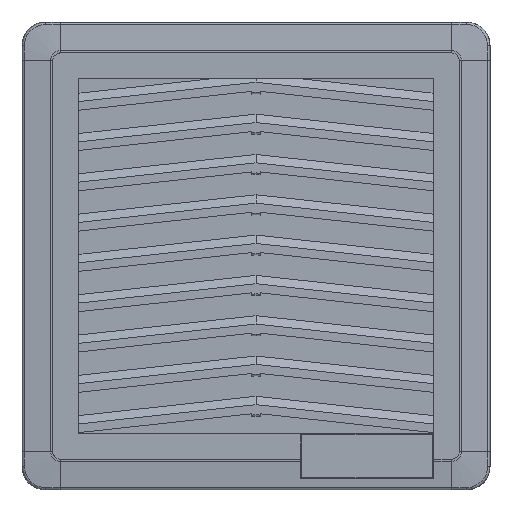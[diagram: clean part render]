
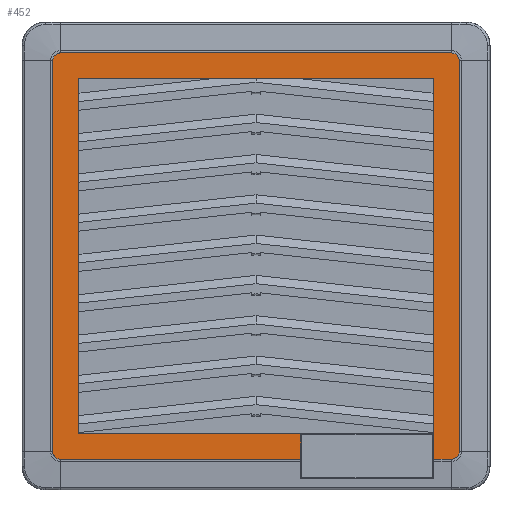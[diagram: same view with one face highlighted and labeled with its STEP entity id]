
A CAD part, top view. The second image highlights one B-rep face of the part: STEP entity #452.
In plain terms, the highlighted planar face has unit normal (0, 0, 1).
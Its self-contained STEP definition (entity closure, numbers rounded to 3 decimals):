
#54=(
BOUNDED_CURVE()
B_SPLINE_CURVE(2,(#6524,#6525,#6526),.UNSPECIFIED.,.F.,.F.)
B_SPLINE_CURVE_WITH_KNOTS((3,3),(0.,2.73),.UNSPECIFIED.)
CURVE()
GEOMETRIC_REPRESENTATION_ITEM()
RATIONAL_B_SPLINE_CURVE((1.,0.707,1.))
REPRESENTATION_ITEM('')
);
#58=(
BOUNDED_CURVE()
B_SPLINE_CURVE(2,(#6538,#6539,#6540),.UNSPECIFIED.,.F.,.F.)
B_SPLINE_CURVE_WITH_KNOTS((3,3),(0.,2.73),.UNSPECIFIED.)
CURVE()
GEOMETRIC_REPRESENTATION_ITEM()
RATIONAL_B_SPLINE_CURVE((1.,0.707,1.))
REPRESENTATION_ITEM('')
);
#63=(
BOUNDED_CURVE()
B_SPLINE_CURVE(2,(#6555,#6556,#6557),.UNSPECIFIED.,.F.,.F.)
B_SPLINE_CURVE_WITH_KNOTS((3,3),(0.,2.73),.UNSPECIFIED.)
CURVE()
GEOMETRIC_REPRESENTATION_ITEM()
RATIONAL_B_SPLINE_CURVE((1.,0.707,1.))
REPRESENTATION_ITEM('')
);
#66=(
BOUNDED_CURVE()
B_SPLINE_CURVE(2,(#6566,#6567,#6568),.UNSPECIFIED.,.F.,.F.)
B_SPLINE_CURVE_WITH_KNOTS((3,3),(0.,2.73),.UNSPECIFIED.)
CURVE()
GEOMETRIC_REPRESENTATION_ITEM()
RATIONAL_B_SPLINE_CURVE((1.,0.707,1.))
REPRESENTATION_ITEM('')
);
#452=ADVANCED_FACE('',(#659),#3683,.T.);
#659=FACE_OUTER_BOUND('',#867,.T.);
#867=EDGE_LOOP('',(#1655,#1656,#1657,#1658,#1659,#1660,#1661,#1662,#1663,
#1664,#1665,#1666,#1667,#1668));
#1655=ORIENTED_EDGE('',*,*,#2547,.F.);
#1656=ORIENTED_EDGE('',*,*,#2562,.F.);
#1657=ORIENTED_EDGE('',*,*,#2550,.F.);
#1658=ORIENTED_EDGE('',*,*,#2567,.F.);
#1659=ORIENTED_EDGE('',*,*,#2551,.F.);
#1660=ORIENTED_EDGE('',*,*,#2573,.F.);
#1661=ORIENTED_EDGE('',*,*,#2552,.F.);
#1662=ORIENTED_EDGE('',*,*,#2577,.F.);
#1663=ORIENTED_EDGE('',*,*,#2553,.F.);
#1664=ORIENTED_EDGE('',*,*,#2554,.F.);
#1665=ORIENTED_EDGE('',*,*,#2297,.F.);
#1666=ORIENTED_EDGE('',*,*,#2267,.F.);
#1667=ORIENTED_EDGE('',*,*,#2537,.T.);
#1668=ORIENTED_EDGE('',*,*,#2272,.T.);
#2267=EDGE_CURVE('',#3323,#3284,#2827,.T.);
#2272=EDGE_CURVE('',#3331,#3330,#2832,.T.);
#2297=EDGE_CURVE('',#3284,#3374,#2857,.T.);
#2537=EDGE_CURVE('',#3323,#3331,#3097,.T.);
#2547=EDGE_CURVE('',#3492,#3330,#3107,.T.);
#2550=EDGE_CURVE('',#3494,#3493,#3108,.T.);
#2551=EDGE_CURVE('',#3496,#3495,#3109,.T.);
#2552=EDGE_CURVE('',#3498,#3497,#3110,.T.);
#2553=EDGE_CURVE('',#3500,#3499,#3111,.T.);
#2554=EDGE_CURVE('',#3374,#3500,#3112,.T.);
#2562=EDGE_CURVE('',#3493,#3492,#54,.T.);
#2567=EDGE_CURVE('',#3495,#3494,#58,.T.);
#2573=EDGE_CURVE('',#3497,#3496,#63,.T.);
#2577=EDGE_CURVE('',#3499,#3498,#66,.T.);
#2827=B_SPLINE_CURVE_WITH_KNOTS('',1,(#5921,#5922),.UNSPECIFIED.,.F.,.F.,
(2,2),(0.,81.),.UNSPECIFIED.);
#2832=B_SPLINE_CURVE_WITH_KNOTS('',1,(#5931,#5932),.UNSPECIFIED.,.F.,.F.,
(2,2),(-86.775,0.),.UNSPECIFIED.);
#2857=B_SPLINE_CURVE_WITH_KNOTS('',1,(#5985,#5986),.UNSPECIFIED.,.F.,.F.,
(2,2),(0.,50.6),.UNSPECIFIED.);
#3097=B_SPLINE_CURVE_WITH_KNOTS('',1,(#6465,#6466),.UNSPECIFIED.,.F.,.F.,
(2,2),(-80.9,0.),.UNSPECIFIED.);
#3107=B_SPLINE_CURVE_WITH_KNOTS('',1,(#6485,#6486),.UNSPECIFIED.,.F.,.F.,
(2,2),(0.,4.087),.UNSPECIFIED.);
#3108=B_SPLINE_CURVE_WITH_KNOTS('',1,(#6493,#6494),.UNSPECIFIED.,.F.,.F.,
(2,2),(-89.073,0.),.UNSPECIFIED.);
#3109=B_SPLINE_CURVE_WITH_KNOTS('',1,(#6495,#6496),.UNSPECIFIED.,.F.,.F.,
(2,2),(-89.073,0.),.UNSPECIFIED.);
#3110=B_SPLINE_CURVE_WITH_KNOTS('',1,(#6497,#6498),.UNSPECIFIED.,.F.,.F.,
(2,2),(-89.073,0.),.UNSPECIFIED.);
#3111=B_SPLINE_CURVE_WITH_KNOTS('',1,(#6499,#6500),.UNSPECIFIED.,.F.,.F.,
(2,2),(-54.687,0.),.UNSPECIFIED.);
#3112=B_SPLINE_CURVE_WITH_KNOTS('',1,(#6501,#6502),.UNSPECIFIED.,.F.,.F.,
(2,2),(-5.775,0.),.UNSPECIFIED.);
#3284=VERTEX_POINT('',#5607);
#3323=VERTEX_POINT('',#5646);
#3330=VERTEX_POINT('',#5653);
#3331=VERTEX_POINT('',#5654);
#3374=VERTEX_POINT('',#5697);
#3492=VERTEX_POINT('',#5815);
#3493=VERTEX_POINT('',#5816);
#3494=VERTEX_POINT('',#5817);
#3495=VERTEX_POINT('',#5818);
#3496=VERTEX_POINT('',#5819);
#3497=VERTEX_POINT('',#5820);
#3498=VERTEX_POINT('',#5821);
#3499=VERTEX_POINT('',#5822);
#3500=VERTEX_POINT('',#5823);
#3683=PLANE('',#3964);
#3964=AXIS2_PLACEMENT_3D('',#4810,#4170,$);
#4170=DIRECTION('',(0.,0.,1.));
#4810=CARTESIAN_POINT('',(55.53,-55.53,6.5));
#5607=CARTESIAN_POINT('',(-40.45,-40.5,6.5));
#5646=CARTESIAN_POINT('',(-40.45,40.5,6.5));
#5653=CARTESIAN_POINT('',(40.45,-46.275,6.5));
#5654=CARTESIAN_POINT('',(40.45,40.5,6.5));
#5697=CARTESIAN_POINT('',(10.15,-40.5,6.5));
#5815=CARTESIAN_POINT('',(44.537,-46.275,6.5));
#5816=CARTESIAN_POINT('',(46.275,-44.537,6.5));
#5817=CARTESIAN_POINT('',(46.275,44.537,6.5));
#5818=CARTESIAN_POINT('',(44.537,46.275,6.5));
#5819=CARTESIAN_POINT('',(-44.537,46.275,6.5));
#5820=CARTESIAN_POINT('',(-46.275,44.537,6.5));
#5821=CARTESIAN_POINT('',(-46.275,-44.537,6.5));
#5822=CARTESIAN_POINT('',(-44.537,-46.275,6.5));
#5823=CARTESIAN_POINT('',(10.15,-46.275,6.5));
#5921=CARTESIAN_POINT('',(-40.45,40.5,6.5));
#5922=CARTESIAN_POINT('',(-40.45,-40.5,6.5));
#5931=CARTESIAN_POINT('',(40.45,40.5,6.5));
#5932=CARTESIAN_POINT('',(40.45,-46.275,6.5));
#5985=CARTESIAN_POINT('',(-40.45,-40.5,6.5));
#5986=CARTESIAN_POINT('',(10.15,-40.5,6.5));
#6465=CARTESIAN_POINT('',(-40.45,40.5,6.5));
#6466=CARTESIAN_POINT('',(40.45,40.5,6.5));
#6485=CARTESIAN_POINT('',(44.537,-46.275,6.5));
#6486=CARTESIAN_POINT('',(40.45,-46.275,6.5));
#6493=CARTESIAN_POINT('',(46.275,44.537,6.5));
#6494=CARTESIAN_POINT('',(46.275,-44.537,6.5));
#6495=CARTESIAN_POINT('',(-44.537,46.275,6.5));
#6496=CARTESIAN_POINT('',(44.537,46.275,6.5));
#6497=CARTESIAN_POINT('',(-46.275,-44.537,6.5));
#6498=CARTESIAN_POINT('',(-46.275,44.537,6.5));
#6499=CARTESIAN_POINT('',(10.15,-46.275,6.5));
#6500=CARTESIAN_POINT('',(-44.537,-46.275,6.5));
#6501=CARTESIAN_POINT('',(10.15,-40.5,6.5));
#6502=CARTESIAN_POINT('',(10.15,-46.275,6.5));
#6524=CARTESIAN_POINT('',(46.275,-44.537,6.5));
#6525=CARTESIAN_POINT('',(46.275,-46.275,6.5));
#6526=CARTESIAN_POINT('',(44.537,-46.275,6.5));
#6538=CARTESIAN_POINT('',(44.537,46.275,6.5));
#6539=CARTESIAN_POINT('',(46.275,46.275,6.5));
#6540=CARTESIAN_POINT('',(46.275,44.537,6.5));
#6555=CARTESIAN_POINT('',(-46.275,44.537,6.5));
#6556=CARTESIAN_POINT('',(-46.275,46.275,6.5));
#6557=CARTESIAN_POINT('',(-44.537,46.275,6.5));
#6566=CARTESIAN_POINT('',(-44.537,-46.275,6.5));
#6567=CARTESIAN_POINT('',(-46.275,-46.275,6.5));
#6568=CARTESIAN_POINT('',(-46.275,-44.537,6.5));
